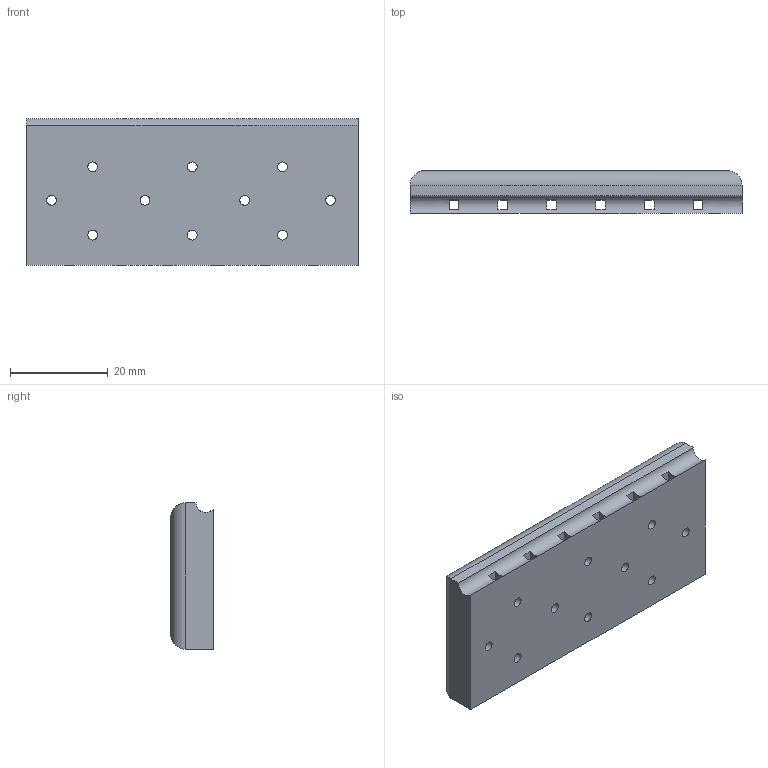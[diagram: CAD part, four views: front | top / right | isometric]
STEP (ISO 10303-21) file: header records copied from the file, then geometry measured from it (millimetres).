
FILE_DESCRIPTION(('STEP AP203'), '1');
FILE_NAME('äåðæàòåëü ñòðóí ïëàñòèêîâûé', '', ('UNSPECIFIED'), ('UNSPECIFIED'), 'ASCON STEP Converter 1.3', 'ASCON Math Kernel', '');
FILE_SCHEMA(('CONFIG_CONTROL_DESIGN'));
Length unit declared in the file: millimetre
Bounding box: 68 x 8.7 x 30 mm (x, y, z)
Volume: 15863.9 mm3; surface area: 7302.9 mm2
Topology: 1 solids, 1 shells, 55 faces, 148 edges, 94 vertices
Faces by surface type: plane 30, cylinder 15, cone 10
Full cylindrical faces by diameter (mm): 2 x10
Entity records: 2263 total; most frequent: CARTESIAN_POINT 398, DIRECTION 276, ORIENTED_EDGE 256, EDGE_CURVE 128, EDGE_LOOP 106, AXIS2_PLACEMENT_3D 99, VERTEX_POINT 94, LINE 78
